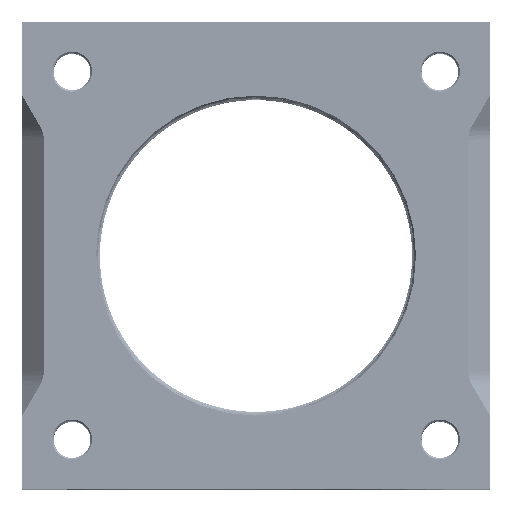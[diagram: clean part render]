
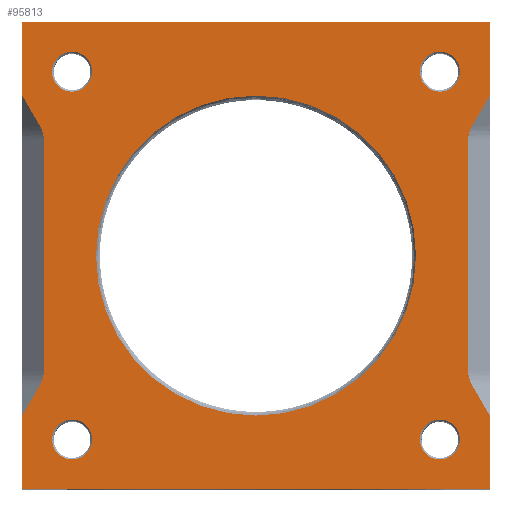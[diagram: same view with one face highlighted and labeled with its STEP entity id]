
A CAD part, top view. The second image highlights one B-rep face of the part: STEP entity #95813.
In plain terms, the highlighted planar face has unit normal (0, 0, 1).
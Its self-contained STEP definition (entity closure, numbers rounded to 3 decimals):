
#16244=CARTESIAN_POINT('',(29.997,29.997,38.1));
#16245=DIRECTION('',(0.,0.,-1.));
#16246=DIRECTION('',(1.,0.,0.));
#16247=AXIS2_PLACEMENT_3D('',#16244,#16245,#16246);
#16249=CARTESIAN_POINT('',(29.997,29.997,38.1));
#16250=DIRECTION('',(0.,0.,-1.));
#16251=DIRECTION('',(-1.,0.,0.));
#16252=AXIS2_PLACEMENT_3D('',#16249,#16250,#16251);
#16254=CARTESIAN_POINT('',(29.997,-29.997,38.1));
#16255=DIRECTION('',(0.,0.,-1.));
#16256=DIRECTION('',(1.,0.,0.));
#16257=AXIS2_PLACEMENT_3D('',#16254,#16255,#16256);
#16259=CARTESIAN_POINT('',(29.997,-29.997,38.1));
#16260=DIRECTION('',(0.,0.,-1.));
#16261=DIRECTION('',(-1.,0.,0.));
#16262=AXIS2_PLACEMENT_3D('',#16259,#16260,#16261);
#16264=CARTESIAN_POINT('',(-29.997,-29.997,38.1));
#16265=DIRECTION('',(0.,0.,-1.));
#16266=DIRECTION('',(1.,0.,0.));
#16267=AXIS2_PLACEMENT_3D('',#16264,#16265,#16266);
#16269=CARTESIAN_POINT('',(-29.997,-29.997,38.1));
#16270=DIRECTION('',(0.,0.,-1.));
#16271=DIRECTION('',(-1.,0.,0.));
#16272=AXIS2_PLACEMENT_3D('',#16269,#16270,#16271);
#16274=CARTESIAN_POINT('',(-29.997,29.997,38.1));
#16275=DIRECTION('',(0.,0.,-1.));
#16276=DIRECTION('',(1.,0.,0.));
#16277=AXIS2_PLACEMENT_3D('',#16274,#16275,#16276);
#16279=CARTESIAN_POINT('',(-29.997,29.997,38.1));
#16280=DIRECTION('',(0.,0.,-1.));
#16281=DIRECTION('',(-1.,0.,0.));
#16282=AXIS2_PLACEMENT_3D('',#16279,#16280,#16281);
#16284=CARTESIAN_POINT('',(0.,0.,38.1));
#16285=DIRECTION('',(0.,0.,-1.));
#16286=DIRECTION('',(1.,0.,0.));
#16287=AXIS2_PLACEMENT_3D('',#16284,#16285,#16286);
#16289=CARTESIAN_POINT('',(0.,0.,38.1));
#16290=DIRECTION('',(0.,0.,-1.));
#16291=DIRECTION('',(-1.,0.,0.));
#16292=AXIS2_PLACEMENT_3D('',#16289,#16290,#16291);
#16294=DIRECTION('',(0.5,0.866,0.));
#16295=VECTOR('',#16294,5.741);
#16296=CARTESIAN_POINT('',(-38.1,-26.062,38.1));
#16297=LINE('',#16296,#16295);
#16298=DIRECTION('',(0.5,-0.866,0.));
#16299=VECTOR('',#16298,5.741);
#16300=CARTESIAN_POINT('',(-38.1,26.062,38.1));
#16301=LINE('',#16300,#16299);
#16302=DIRECTION('',(-1.,0.,0.));
#16303=VECTOR('',#16302,76.2);
#16304=CARTESIAN_POINT('',(38.1,38.1,38.1));
#16305=LINE('',#16304,#16303);
#16306=DIRECTION('',(0.,1.,0.));
#16307=VECTOR('',#16306,12.038);
#16308=CARTESIAN_POINT('',(38.1,26.062,38.1));
#16309=LINE('',#16308,#16307);
#16310=DIRECTION('',(-0.5,-0.866,0.));
#16311=VECTOR('',#16310,5.741);
#16312=CARTESIAN_POINT('',(38.1,26.062,38.1));
#16313=LINE('',#16312,#16311);
#16314=DIRECTION('',(0.5,-0.866,0.));
#16315=VECTOR('',#16314,5.741);
#16316=CARTESIAN_POINT('',(35.229,-21.09,38.1));
#16317=LINE('',#16316,#16315);
#16318=DIRECTION('',(0.,1.,0.));
#16319=VECTOR('',#16318,12.038);
#16320=CARTESIAN_POINT('',(38.1,-38.1,38.1));
#16321=LINE('',#16320,#16319);
#17345=DIRECTION('',(0.,1.,0.));
#17346=VECTOR('',#17345,12.038);
#17347=CARTESIAN_POINT('',(-38.1,-38.1,38.1));
#17348=LINE('',#17347,#17346);
#17361=DIRECTION('',(0.,1.,0.));
#17362=VECTOR('',#17361,12.038);
#17363=CARTESIAN_POINT('',(-38.1,26.062,38.1));
#17364=LINE('',#17363,#17362);
#38756=DIRECTION('',(-1.,0.,0.));
#38757=VECTOR('',#38756,76.2);
#38758=CARTESIAN_POINT('',(38.1,-38.1,38.1));
#38759=LINE('',#38758,#38757);
#56476=DIRECTION('',(0.,-1.,0.));
#56477=VECTOR('',#56476,37.645);
#56478=CARTESIAN_POINT('',(-34.6,18.822,38.1));
#56479=LINE('',#56478,#56477);
#56493=CARTESIAN_POINT('',(-35.229,21.09,38.1));
#56494=CARTESIAN_POINT('',(-34.823,20.387,38.1));
#56495=CARTESIAN_POINT('',(-34.6,19.635,38.1));
#56496=CARTESIAN_POINT('',(-34.6,18.822,38.1));
#56502=CARTESIAN_POINT('',(-34.6,-18.822,38.1));
#56503=CARTESIAN_POINT('',(-34.6,-19.635,38.1));
#56504=CARTESIAN_POINT('',(-34.823,-20.387,38.1));
#56505=CARTESIAN_POINT('',(-35.229,-21.09,38.1));
#56587=CARTESIAN_POINT('',(34.6,18.822,38.1));
#56588=CARTESIAN_POINT('',(34.6,19.635,38.1));
#56589=CARTESIAN_POINT('',(34.823,20.387,38.1));
#56590=CARTESIAN_POINT('',(35.229,21.09,38.1));
#56596=DIRECTION('',(0.,1.,0.));
#56597=VECTOR('',#56596,37.645);
#56598=CARTESIAN_POINT('',(34.6,-18.822,38.1));
#56599=LINE('',#56598,#56597);
#56613=CARTESIAN_POINT('',(35.229,-21.09,38.1));
#56614=CARTESIAN_POINT('',(34.823,-20.387,38.1));
#56615=CARTESIAN_POINT('',(34.6,-19.635,38.1));
#56616=CARTESIAN_POINT('',(34.6,-18.822,38.1));
#61284=CARTESIAN_POINT('',(-26.734,29.997,38.1));
#61285=CARTESIAN_POINT('',(-33.261,29.997,38.1));
#61286=VERTEX_POINT('',#61284);
#61287=VERTEX_POINT('',#61285);
#61288=CARTESIAN_POINT('',(-38.1,-38.1,38.1));
#61290=VERTEX_POINT('',#61288);
#61336=CARTESIAN_POINT('',(-33.261,-29.997,38.1));
#61338=VERTEX_POINT('',#61336);
#61340=CARTESIAN_POINT('',(33.261,-29.997,38.1));
#61341=VERTEX_POINT('',#61340);
#61342=CARTESIAN_POINT('',(26.734,-29.997,38.1));
#61343=VERTEX_POINT('',#61342);
#61344=CARTESIAN_POINT('',(26.099,0.,38.1));
#61346=VERTEX_POINT('',#61344);
#61376=CARTESIAN_POINT('',(38.1,-38.1,38.1));
#61377=VERTEX_POINT('',#61376);
#61392=CARTESIAN_POINT('',(38.1,38.1,38.1));
#61393=CARTESIAN_POINT('',(-38.1,38.1,38.1));
#61394=VERTEX_POINT('',#61392);
#61395=VERTEX_POINT('',#61393);
#61396=CARTESIAN_POINT('',(33.261,29.997,38.1));
#61398=VERTEX_POINT('',#61396);
#61400=CARTESIAN_POINT('',(-26.734,-29.997,38.1));
#61401=VERTEX_POINT('',#61400);
#61418=CARTESIAN_POINT('',(26.734,29.997,38.1));
#61419=VERTEX_POINT('',#61418);
#61420=CARTESIAN_POINT('',(-26.099,0.,38.1));
#61421=VERTEX_POINT('',#61420);
#64044=CARTESIAN_POINT('',(-34.6,18.822,38.1));
#64046=VERTEX_POINT('',#64044);
#64048=CARTESIAN_POINT('',(-35.229,21.09,38.1));
#64050=VERTEX_POINT('',#64048);
#64051=CARTESIAN_POINT('',(-38.1,-26.062,38.1));
#64052=VERTEX_POINT('',#64051);
#64053=CARTESIAN_POINT('',(-38.1,26.062,38.1));
#64054=VERTEX_POINT('',#64053);
#64063=CARTESIAN_POINT('',(38.1,-26.062,38.1));
#64064=VERTEX_POINT('',#64063);
#64065=CARTESIAN_POINT('',(38.1,26.062,38.1));
#64066=VERTEX_POINT('',#64065);
#64067=CARTESIAN_POINT('',(-34.6,-18.822,38.1));
#64069=VERTEX_POINT('',#64067);
#64071=CARTESIAN_POINT('',(-35.229,-21.09,38.1));
#64073=VERTEX_POINT('',#64071);
#64076=CARTESIAN_POINT('',(34.6,-18.822,38.1));
#64078=VERTEX_POINT('',#64076);
#64080=CARTESIAN_POINT('',(35.229,-21.09,38.1));
#64082=VERTEX_POINT('',#64080);
#64084=CARTESIAN_POINT('',(35.229,21.09,38.1));
#64086=VERTEX_POINT('',#64084);
#64088=CARTESIAN_POINT('',(34.6,18.822,38.1));
#64090=VERTEX_POINT('',#64088);
#95748=CARTESIAN_POINT('',(-38.1,38.1,38.1));
#95749=DIRECTION('',(0.,0.,-1.));
#95750=DIRECTION('',(-1.,0.,0.));
#95751=AXIS2_PLACEMENT_3D('',#95748,#95749,#95750);
#95752=PLANE('',#95751);
#95754=ORIENTED_EDGE('',*,*,#95753,.T.);
#95756=ORIENTED_EDGE('',*,*,#95755,.F.);
#95758=ORIENTED_EDGE('',*,*,#95757,.F.);
#95760=ORIENTED_EDGE('',*,*,#95759,.F.);
#95762=ORIENTED_EDGE('',*,*,#95761,.F.);
#95764=ORIENTED_EDGE('',*,*,#95763,.T.);
#95766=ORIENTED_EDGE('',*,*,#95765,.F.);
#95767=ORIENTED_EDGE('',*,*,#88044,.F.);
#95769=ORIENTED_EDGE('',*,*,#95768,.T.);
#95771=ORIENTED_EDGE('',*,*,#95770,.F.);
#95773=ORIENTED_EDGE('',*,*,#95772,.F.);
#95775=ORIENTED_EDGE('',*,*,#95774,.F.);
#95777=ORIENTED_EDGE('',*,*,#95776,.T.);
#95778=ORIENTED_EDGE('',*,*,#88062,.F.);
#95780=ORIENTED_EDGE('',*,*,#95779,.T.);
#95782=ORIENTED_EDGE('',*,*,#95781,.T.);
#95783=EDGE_LOOP('',(#95754,#95756,#95758,#95760,#95762,#95764,#95766,#95767,
#95769,#95771,#95773,#95775,#95777,#95778,#95780,#95782));
#95784=FACE_OUTER_BOUND('',#95783,.F.);
#95785=ORIENTED_EDGE('',*,*,#95742,.F.);
#95786=ORIENTED_EDGE('',*,*,#95727,.F.);
#95787=EDGE_LOOP('',(#95785,#95786));
#95788=FACE_BOUND('',#95787,.F.);
#95790=ORIENTED_EDGE('',*,*,#95789,.F.);
#95792=ORIENTED_EDGE('',*,*,#95791,.F.);
#95793=EDGE_LOOP('',(#95790,#95792));
#95794=FACE_BOUND('',#95793,.F.);
#95796=ORIENTED_EDGE('',*,*,#95795,.F.);
#95798=ORIENTED_EDGE('',*,*,#95797,.F.);
#95799=EDGE_LOOP('',(#95796,#95798));
#95800=FACE_BOUND('',#95799,.F.);
#95802=ORIENTED_EDGE('',*,*,#95801,.F.);
#95804=ORIENTED_EDGE('',*,*,#95803,.F.);
#95805=EDGE_LOOP('',(#95802,#95804));
#95806=FACE_BOUND('',#95805,.F.);
#95808=ORIENTED_EDGE('',*,*,#95807,.F.);
#95810=ORIENTED_EDGE('',*,*,#95809,.F.);
#95811=EDGE_LOOP('',(#95808,#95810));
#95812=FACE_BOUND('',#95811,.F.);
#95813=ADVANCED_FACE('',(#95784,#95788,#95794,#95800,#95806,#95812),#95752,.F.);
#16248=CIRCLE('',#16247,3.264);
#16253=CIRCLE('',#16252,3.264);
#16258=CIRCLE('',#16257,3.264);
#16263=CIRCLE('',#16262,3.264);
#16268=CIRCLE('',#16267,3.264);
#16273=CIRCLE('',#16272,3.264);
#16278=CIRCLE('',#16277,3.264);
#16283=CIRCLE('',#16282,3.264);
#16288=CIRCLE('',#16287,26.099);
#16293=CIRCLE('',#16292,26.099);
#56497=B_SPLINE_CURVE_WITH_KNOTS('',3,(#56493,#56494,#56495,#56496),
.UNSPECIFIED.,.F.,.F.,(4,4),(0.,1.),.UNSPECIFIED.);
#56506=B_SPLINE_CURVE_WITH_KNOTS('',3,(#56502,#56503,#56504,#56505),
.UNSPECIFIED.,.F.,.F.,(4,4),(0.,1.),.UNSPECIFIED.);
#56591=B_SPLINE_CURVE_WITH_KNOTS('',3,(#56587,#56588,#56589,#56590),
.UNSPECIFIED.,.F.,.F.,(4,4),(0.,1.),.UNSPECIFIED.);
#56617=B_SPLINE_CURVE_WITH_KNOTS('',3,(#56613,#56614,#56615,#56616),
.UNSPECIFIED.,.F.,.F.,(4,4),(0.,1.),.UNSPECIFIED.);
#88044=EDGE_CURVE('',#64066,#61394,#16309,.T.);
#88062=EDGE_CURVE('',#61377,#64064,#16321,.T.);
#95727=EDGE_CURVE('',#61343,#61341,#16263,.T.);
#95742=EDGE_CURVE('',#61341,#61343,#16258,.T.);
#95753=EDGE_CURVE('',#64052,#64073,#16297,.T.);
#95755=EDGE_CURVE('',#64069,#64073,#56506,.T.);
#95757=EDGE_CURVE('',#64046,#64069,#56479,.T.);
#95759=EDGE_CURVE('',#64050,#64046,#56497,.T.);
#95761=EDGE_CURVE('',#64054,#64050,#16301,.T.);
#95763=EDGE_CURVE('',#64054,#61395,#17364,.T.);
#95765=EDGE_CURVE('',#61394,#61395,#16305,.T.);
#95768=EDGE_CURVE('',#64066,#64086,#16313,.T.);
#95770=EDGE_CURVE('',#64090,#64086,#56591,.T.);
#95772=EDGE_CURVE('',#64078,#64090,#56599,.T.);
#95774=EDGE_CURVE('',#64082,#64078,#56617,.T.);
#95776=EDGE_CURVE('',#64082,#64064,#16317,.T.);
#95779=EDGE_CURVE('',#61377,#61290,#38759,.T.);
#95781=EDGE_CURVE('',#61290,#64052,#17348,.T.);
#95789=EDGE_CURVE('',#61401,#61338,#16268,.T.);
#95791=EDGE_CURVE('',#61338,#61401,#16273,.T.);
#95795=EDGE_CURVE('',#61286,#61287,#16278,.T.);
#95797=EDGE_CURVE('',#61287,#61286,#16283,.T.);
#95801=EDGE_CURVE('',#61346,#61421,#16288,.T.);
#95803=EDGE_CURVE('',#61421,#61346,#16293,.T.);
#95807=EDGE_CURVE('',#61398,#61419,#16248,.T.);
#95809=EDGE_CURVE('',#61419,#61398,#16253,.T.);
